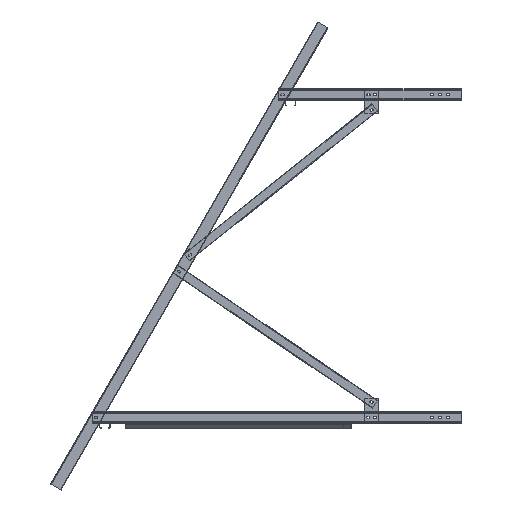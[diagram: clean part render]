
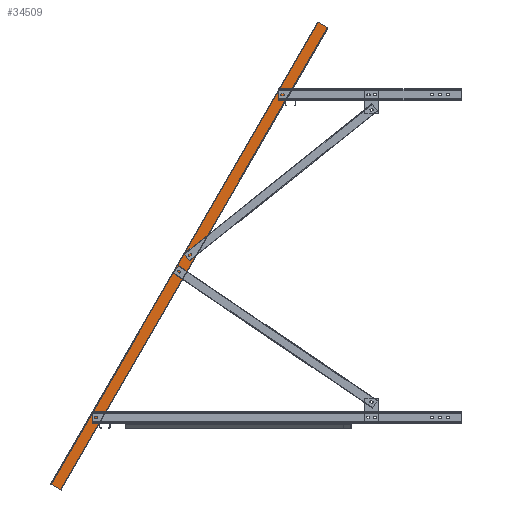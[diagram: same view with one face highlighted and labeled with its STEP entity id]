
A CAD part, left-side view. The second image highlights one B-rep face of the part: STEP entity #34509.
In plain terms, the highlighted planar face has unit normal (-1, 0, 0).
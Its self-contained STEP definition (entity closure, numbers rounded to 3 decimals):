
#710 = CARTESIAN_POINT ( 'NONE',  ( 0., 3003.953, -542.051 ) ) ;
#1186 = CARTESIAN_POINT ( 'NONE',  ( 0., 1073.235, 2962.051 ) ) ;
#1187 = CARTESIAN_POINT ( 'NONE',  ( 0., 1003.953, 2922.051 ) ) ;
#2266 = LINE ( 'NONE', #4995, #28688 ) ;
#2464 = CARTESIAN_POINT ( 'NONE',  ( 0., 1073.235, 2962.051 ) ) ;
#3693 = ORIENTED_EDGE ( 'NONE', *, *, #30973, .F. ) ;
#3882 = VECTOR ( 'NONE', #5369, 1000. ) ;
#4590 = VECTOR ( 'NONE', #34578, 1000. ) ;
#4942 = VERTEX_POINT ( 'NONE', #28885 ) ;
#4995 = CARTESIAN_POINT ( 'NONE',  ( 0., 3073.235, -502.051 ) ) ;
#5369 = DIRECTION ( 'NONE',  ( 0., 0.5, -0.866 ) ) ;
#6481 = EDGE_LOOP ( 'NONE', ( #10930, #26590, #3693, #23681 ) ) ;
#7894 = DIRECTION ( 'NONE',  ( 0., -0.866, -0.5 ) ) ;
#9184 = LINE ( 'NONE', #1187, #27062 ) ;
#9501 = CARTESIAN_POINT ( 'NONE',  ( 0., 3073.235, -502.051 ) ) ;
#10786 = FACE_OUTER_BOUND ( 'NONE', #6481, .T. ) ;
#10930 = ORIENTED_EDGE ( 'NONE', *, *, #19271, .T. ) ;
#11757 = DIRECTION ( 'NONE',  ( 0., 0.5, -0.866 ) ) ;
#13292 = EDGE_CURVE ( 'NONE', #13600, #26474, #9184, .T. ) ;
#13600 = VERTEX_POINT ( 'NONE', #22745 ) ;
#15026 = LINE ( 'NONE', #1186, #4590 ) ;
#19271 = EDGE_CURVE ( 'NONE', #23459, #26474, #2266, .T. ) ;
#21566 = EDGE_CURVE ( 'NONE', #4942, #23459, #28207, .T. ) ;
#22739 = AXIS2_PLACEMENT_3D ( 'NONE', #35464, #27248, #27074 ) ;
#22745 = CARTESIAN_POINT ( 'NONE',  ( 0., 1003.953, 2922.051 ) ) ;
#23459 = VERTEX_POINT ( 'NONE', #9501 ) ;
#23681 = ORIENTED_EDGE ( 'NONE', *, *, #21566, .T. ) ;
#26474 = VERTEX_POINT ( 'NONE', #710 ) ;
#26590 = ORIENTED_EDGE ( 'NONE', *, *, #13292, .F. ) ;
#27062 = VECTOR ( 'NONE', #11757, 1000. ) ;
#27074 = DIRECTION ( 'NONE',  ( 0., 0., -1. ) ) ;
#27248 = DIRECTION ( 'NONE',  ( 1., 0., 0. ) ) ;
#28207 = LINE ( 'NONE', #2464, #3882 ) ;
#28688 = VECTOR ( 'NONE', #7894, 1000. ) ;
#28885 = CARTESIAN_POINT ( 'NONE',  ( 0., 1073.235, 2962.051 ) ) ;
#30170 = PLANE ( 'NONE',  #22739 ) ;
#30973 = EDGE_CURVE ( 'NONE', #4942, #13600, #15026, .T. ) ;
#34509 = ADVANCED_FACE ( 'NONE', ( #10786 ), #30170, .F. ) ;
#34578 = DIRECTION ( 'NONE',  ( 0., -0.866, -0.5 ) ) ;
#35464 = CARTESIAN_POINT ( 'NONE',  ( 0., 1073.235, 2962.051 ) ) ;
